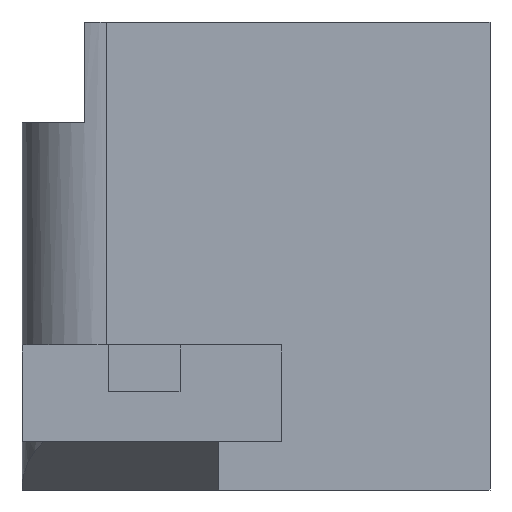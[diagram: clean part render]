
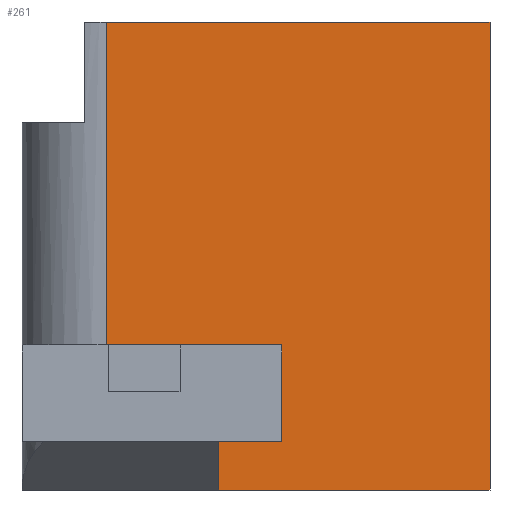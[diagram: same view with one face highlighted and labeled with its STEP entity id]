
A CAD part, front view. The second image highlights one B-rep face of the part: STEP entity #261.
In plain terms, the highlighted planar face has unit normal (0, -1, 0).
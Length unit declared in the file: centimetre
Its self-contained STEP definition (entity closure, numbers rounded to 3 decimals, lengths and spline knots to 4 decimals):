
#2 = DIRECTION ( 'NONE',  ( 1., 0., 0. ) ) ;
#34 = DIRECTION ( 'NONE',  ( -1., 0., 0. ) ) ;
#42 = DIRECTION ( 'NONE',  ( -1., 0., 0. ) ) ;
#45 = EDGE_CURVE ( 'NONE', #213, #662, #67, .T. ) ;
#46 = CARTESIAN_POINT ( 'NONE',  ( 0., 0., 0. ) ) ;
#67 = LINE ( 'NONE', #531, #794 ) ;
#81 = LINE ( 'NONE', #154, #723 ) ;
#111 = CARTESIAN_POINT ( 'NONE',  ( 555.0274, 0., 103.097 ) ) ;
#144 = VERTEX_POINT ( 'NONE', #227 ) ;
#148 = ORIENTED_EDGE ( 'NONE', *, *, #474, .T. ) ;
#152 = VECTOR ( 'NONE', #504, 100. ) ;
#154 = CARTESIAN_POINT ( 'NONE',  ( 180.3371, 0., 1000. ) ) ;
#180 = VECTOR ( 'NONE', #34, 100. ) ;
#201 = CARTESIAN_POINT ( 'NONE',  ( 555.0274, 0., 103.097 ) ) ;
#209 = VECTOR ( 'NONE', #42, 100. ) ;
#210 = ORIENTED_EDGE ( 'NONE', *, *, #243, .F. ) ;
#213 = VERTEX_POINT ( 'NONE', #270 ) ;
#227 = CARTESIAN_POINT ( 'NONE',  ( 1000., 0., 1000. ) ) ;
#228 = CARTESIAN_POINT ( 'NONE',  ( 0., 0., 1000. ) ) ;
#243 = EDGE_CURVE ( 'NONE', #629, #911, #341, .T. ) ;
#261 = ADVANCED_FACE ( 'NONE', ( #792 ), #627, .F. ) ;
#263 = ORIENTED_EDGE ( 'NONE', *, *, #45, .F. ) ;
#270 = CARTESIAN_POINT ( 'NONE',  ( 420.8718, 0., 0. ) ) ;
#291 = CARTESIAN_POINT ( 'NONE',  ( 555.0274, 0., 103.097 ) ) ;
#341 = LINE ( 'NONE', #201, #697 ) ;
#347 = CARTESIAN_POINT ( 'NONE',  ( 420.8718, 0., 103.097 ) ) ;
#351 = ORIENTED_EDGE ( 'NONE', *, *, #574, .T. ) ;
#355 = AXIS2_PLACEMENT_3D ( 'NONE', #1028, #878, #473 ) ;
#384 = EDGE_CURVE ( 'NONE', #994, #144, #711, .T. ) ;
#416 = VERTEX_POINT ( 'NONE', #731 ) ;
#437 = VECTOR ( 'NONE', #2, 100. ) ;
#473 = DIRECTION ( 'NONE',  ( 0., 0., 1. ) ) ;
#474 = EDGE_CURVE ( 'NONE', #629, #662, #588, .T. ) ;
#487 = CARTESIAN_POINT ( 'NONE',  ( 555.0274, 0., 309.9419 ) ) ;
#504 = DIRECTION ( 'NONE',  ( 0., 0., -1. ) ) ;
#506 = DIRECTION ( 'NONE',  ( 0., 0., 1. ) ) ;
#531 = CARTESIAN_POINT ( 'NONE',  ( 420.8718, 0., 153.2689 ) ) ;
#570 = CARTESIAN_POINT ( 'NONE',  ( 1000., 0., 1000. ) ) ;
#574 = EDGE_CURVE ( 'NONE', #213, #416, #669, .T. ) ;
#579 = CARTESIAN_POINT ( 'NONE',  ( 555.0274, 0., 309.9419 ) ) ;
#588 = LINE ( 'NONE', #111, #209 ) ;
#598 = DIRECTION ( 'NONE',  ( 0., 0., 1. ) ) ;
#627 = PLANE ( 'NONE',  #355 ) ;
#629 = VERTEX_POINT ( 'NONE', #291 ) ;
#646 = EDGE_CURVE ( 'NONE', #911, #935, #742, .T. ) ;
#662 = VERTEX_POINT ( 'NONE', #347 ) ;
#669 = LINE ( 'NONE', #46, #949 ) ;
#697 = VECTOR ( 'NONE', #506, 100. ) ;
#701 = EDGE_CURVE ( 'NONE', #144, #416, #822, .T. ) ;
#711 = LINE ( 'NONE', #228, #437 ) ;
#723 = VECTOR ( 'NONE', #802, 100. ) ;
#731 = CARTESIAN_POINT ( 'NONE',  ( 1000., 0., 0. ) ) ;
#742 = LINE ( 'NONE', #579, #180 ) ;
#792 = FACE_OUTER_BOUND ( 'NONE', #943, .T. ) ;
#794 = VECTOR ( 'NONE', #598, 100. ) ;
#802 = DIRECTION ( 'NONE',  ( 0., 0., -1. ) ) ;
#809 = EDGE_CURVE ( 'NONE', #994, #935, #81, .T. ) ;
#821 = CARTESIAN_POINT ( 'NONE',  ( 180.3371, 0., 309.9419 ) ) ;
#822 = LINE ( 'NONE', #570, #152 ) ;
#825 = DIRECTION ( 'NONE',  ( 1., 0., 0. ) ) ;
#851 = ORIENTED_EDGE ( 'NONE', *, *, #809, .T. ) ;
#873 = ORIENTED_EDGE ( 'NONE', *, *, #384, .F. ) ;
#878 = DIRECTION ( 'NONE',  ( 0., 1., 0. ) ) ;
#888 = CARTESIAN_POINT ( 'NONE',  ( 180.3371, 0., 1000. ) ) ;
#911 = VERTEX_POINT ( 'NONE', #487 ) ;
#912 = ORIENTED_EDGE ( 'NONE', *, *, #701, .F. ) ;
#935 = VERTEX_POINT ( 'NONE', #821 ) ;
#943 = EDGE_LOOP ( 'NONE', ( #210, #148, #263, #351, #912, #873, #851, #1000 ) ) ;
#949 = VECTOR ( 'NONE', #825, 100. ) ;
#994 = VERTEX_POINT ( 'NONE', #888 ) ;
#1000 = ORIENTED_EDGE ( 'NONE', *, *, #646, .F. ) ;
#1028 = CARTESIAN_POINT ( 'NONE',  ( 0., 0., 1000. ) ) ;
